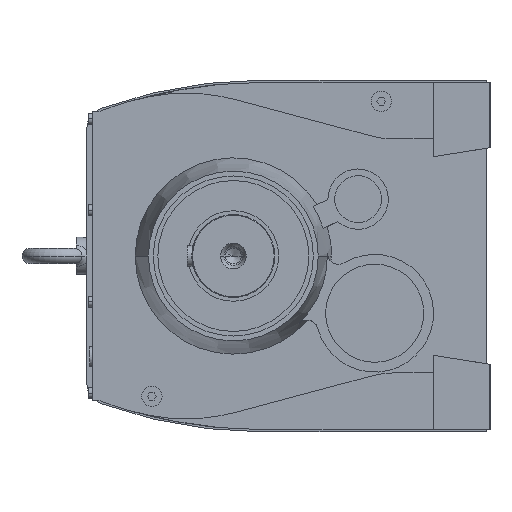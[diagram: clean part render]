
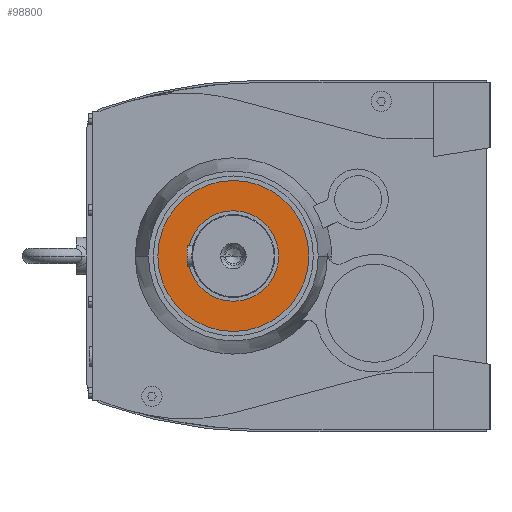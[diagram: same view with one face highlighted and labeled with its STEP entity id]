
A CAD part, left-side view. The second image highlights one B-rep face of the part: STEP entity #98800.
In plain terms, the highlighted planar face has unit normal (-1, 0, 0) as drawn and (0, 0, -1) by its records, which use the part's own axes.
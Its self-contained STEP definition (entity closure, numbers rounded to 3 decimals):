
#67420=CARTESIAN_POINT('',(-16.612,-70.133,-205.5));
#67430=DIRECTION('',(0.,0.,-1.));
#67440=DIRECTION('',(1.,0.,0.));
#67450=AXIS2_PLACEMENT_3D('',#67420,#67430,#67440);
#67460=PLANE('',#67450);
#67520=CARTESIAN_POINT('',(35.,-34.,-205.5));
#67530=DIRECTION('',(0.,0.,-1.));
#67540=DIRECTION('',(1.,0.,0.));
#67550=AXIS2_PLACEMENT_3D('',#67520,#67530,#67540);
#67560=CIRCLE('',#67550,100.);
#67570=CARTESIAN_POINT('',(135.,-34.,-205.5));
#67580=VERTEX_POINT('',#67570);
#67590=EDGE_CURVE('',#67580,#67580,#67560,.T.);
#98770=ORIENTED_EDGE('',*,*,#67590,.T.);
#98780=EDGE_LOOP('',(#98770));
#98790=FACE_OUTER_BOUND('',#98780,.T.);
#98800=ADVANCED_FACE('',(#98790),#67460,.T.);
